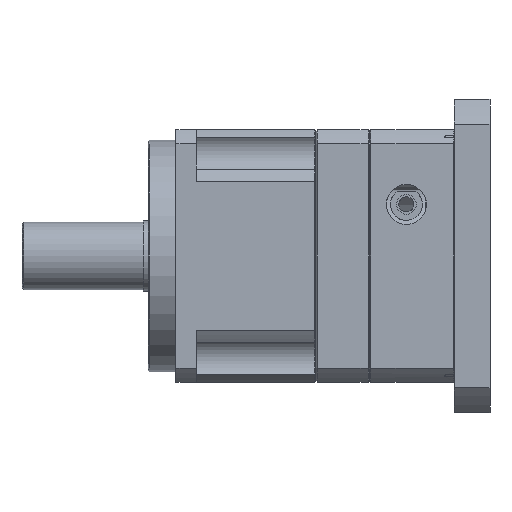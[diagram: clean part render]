
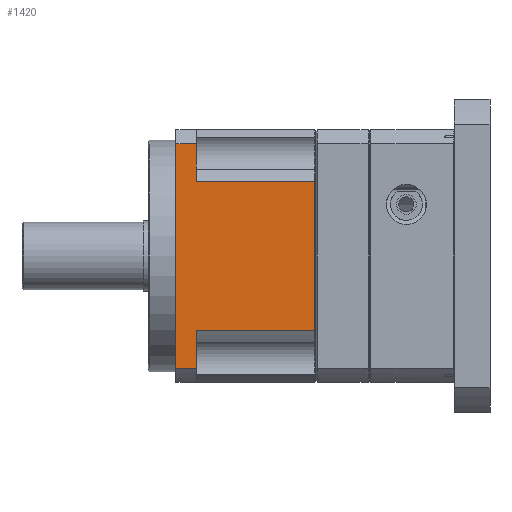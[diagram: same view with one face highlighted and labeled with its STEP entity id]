
A CAD part, left-side view. The second image highlights one B-rep face of the part: STEP entity #1420.
In plain terms, the highlighted planar face has unit normal (-1, 0, 0).
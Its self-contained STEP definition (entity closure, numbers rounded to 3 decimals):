
#445 = ORIENTED_EDGE ( 'NONE', *, *, #1041, .F. ) ;
#447 = ORIENTED_EDGE ( 'NONE', *, *, #1046, .F. ) ;
#448 = ORIENTED_EDGE ( 'NONE', *, *, #1050, .T. ) ;
#450 = ORIENTED_EDGE ( 'NONE', *, *, #1048, .F. ) ;
#461 = ORIENTED_EDGE ( 'NONE', *, *, #1047, .T. ) ;
#475 = ORIENTED_EDGE ( 'NONE', *, *, #1052, .F. ) ;
#504 = ORIENTED_EDGE ( 'NONE', *, *, #1049, .F. ) ;
#507 = ORIENTED_EDGE ( 'NONE', *, *, #1051, .F. ) ;
#658 = EDGE_LOOP ( 'NONE', ( #447, #461, #445, #450, #504, #448, #507, #475 ) ) ;
#1041 = EDGE_CURVE ( 'NONE', #5723, #5726, #1975, .T. ) ;
#1046 = EDGE_CURVE ( 'NONE', #5727, #5730, #1979, .T. ) ;
#1047 = EDGE_CURVE ( 'NONE', #5727, #5726, #1981, .T. ) ;
#1048 = EDGE_CURVE ( 'NONE', #5710, #5723, #1982, .T. ) ;
#1049 = EDGE_CURVE ( 'NONE', #5733, #5710, #1984, .T. ) ;
#1050 = EDGE_CURVE ( 'NONE', #5733, #5735, #1986, .T. ) ;
#1051 = EDGE_CURVE ( 'NONE', #5708, #5735, #1990, .T. ) ;
#1052 = EDGE_CURVE ( 'NONE', #5730, #5708, #1988, .T. ) ;
#1420 = ADVANCED_FACE ( 'NONE', ( #4208 ), #3777, .F. ) ;
#1975 = LINE ( 'NONE', #2383, #1977 ) ;
#1977 = VECTOR ( 'NONE', #2379, 1000. ) ;
#1979 = LINE ( 'NONE', #2393, #1983 ) ;
#1981 = LINE ( 'NONE', #2395, #1985 ) ;
#1982 = LINE ( 'NONE', #2394, #1987 ) ;
#1983 = VECTOR ( 'NONE', #2392, 1000. ) ;
#1984 = LINE ( 'NONE', #2399, #1989 ) ;
#1985 = VECTOR ( 'NONE', #2400, 1000. ) ;
#1986 = LINE ( 'NONE', #2401, #1991 ) ;
#1987 = VECTOR ( 'NONE', #2402, 1000. ) ;
#1988 = LINE ( 'NONE', #2403, #1995 ) ;
#1989 = VECTOR ( 'NONE', #2404, 1000. ) ;
#1990 = LINE ( 'NONE', #2407, #1993 ) ;
#1991 = VECTOR ( 'NONE', #2406, 1000. ) ;
#1993 = VECTOR ( 'NONE', #2409, 1000. ) ;
#1995 = VECTOR ( 'NONE', #2410, 1000. ) ;
#2379 = DIRECTION ( 'NONE',  ( 0., -1., 0. ) ) ;
#2383 = CARTESIAN_POINT ( 'NONE',  ( -71., 67., 42.015 ) ) ;
#2392 = DIRECTION ( 'NONE',  ( 0., 1., 0. ) ) ;
#2393 = CARTESIAN_POINT ( 'NONE',  ( -71., 67., -42.015 ) ) ;
#2394 = CARTESIAN_POINT ( 'NONE',  ( -71., 67., 71. ) ) ;
#2395 = CARTESIAN_POINT ( 'NONE',  ( -71., 0.5, 71. ) ) ;
#2399 = CARTESIAN_POINT ( 'NONE',  ( -71., 0., 63.119 ) ) ;
#2400 = DIRECTION ( 'NONE',  ( 0., 0., 1. ) ) ;
#2401 = CARTESIAN_POINT ( 'NONE',  ( -71., 78.5, -63.119 ) ) ;
#2402 = DIRECTION ( 'NONE',  ( 0., 0., -1. ) ) ;
#2403 = CARTESIAN_POINT ( 'NONE',  ( -71., 67., 71. ) ) ;
#2404 = DIRECTION ( 'NONE',  ( 0., -1., 0. ) ) ;
#2406 = DIRECTION ( 'NONE',  ( 0., 0., -1. ) ) ;
#2407 = CARTESIAN_POINT ( 'NONE',  ( -71., 0., -63.119 ) ) ;
#2409 = DIRECTION ( 'NONE',  ( 0., 1., 0. ) ) ;
#2410 = DIRECTION ( 'NONE',  ( 0., 0., -1. ) ) ;
#3774 = CARTESIAN_POINT ( 'NONE',  ( -71., 94., 71. ) ) ;
#3777 = PLANE ( 'NONE',  #3990 ) ;
#3779 = DIRECTION ( 'NONE',  ( 1., 0., 0. ) ) ;
#3780 = DIRECTION ( 'NONE',  ( 0., 0., -1. ) ) ;
#3990 = AXIS2_PLACEMENT_3D ( 'NONE', #3774, #3779, #3780 ) ;
#4208 = FACE_OUTER_BOUND ( 'NONE', #658, .T. ) ;
#5708 = VERTEX_POINT ( 'NONE', #7105 ) ;
#5710 = VERTEX_POINT ( 'NONE', #7107 ) ;
#5723 = VERTEX_POINT ( 'NONE', #7120 ) ;
#5726 = VERTEX_POINT ( 'NONE', #7123 ) ;
#5727 = VERTEX_POINT ( 'NONE', #7124 ) ;
#5730 = VERTEX_POINT ( 'NONE', #7127 ) ;
#5733 = VERTEX_POINT ( 'NONE', #7130 ) ;
#5735 = VERTEX_POINT ( 'NONE', #7132 ) ;
#7105 = CARTESIAN_POINT ( 'NONE',  ( -71., 67., -63.119 ) ) ;
#7107 = CARTESIAN_POINT ( 'NONE',  ( -71., 67., 63.119 ) ) ;
#7120 = CARTESIAN_POINT ( 'NONE',  ( -71., 67., 42.015 ) ) ;
#7123 = CARTESIAN_POINT ( 'NONE',  ( -71., 0.5, 42.015 ) ) ;
#7124 = CARTESIAN_POINT ( 'NONE',  ( -71., 0.5, -42.015 ) ) ;
#7127 = CARTESIAN_POINT ( 'NONE',  ( -71., 67., -42.015 ) ) ;
#7130 = CARTESIAN_POINT ( 'NONE',  ( -71., 78.5, 63.119 ) ) ;
#7132 = CARTESIAN_POINT ( 'NONE',  ( -71., 78.5, -63.119 ) ) ;
